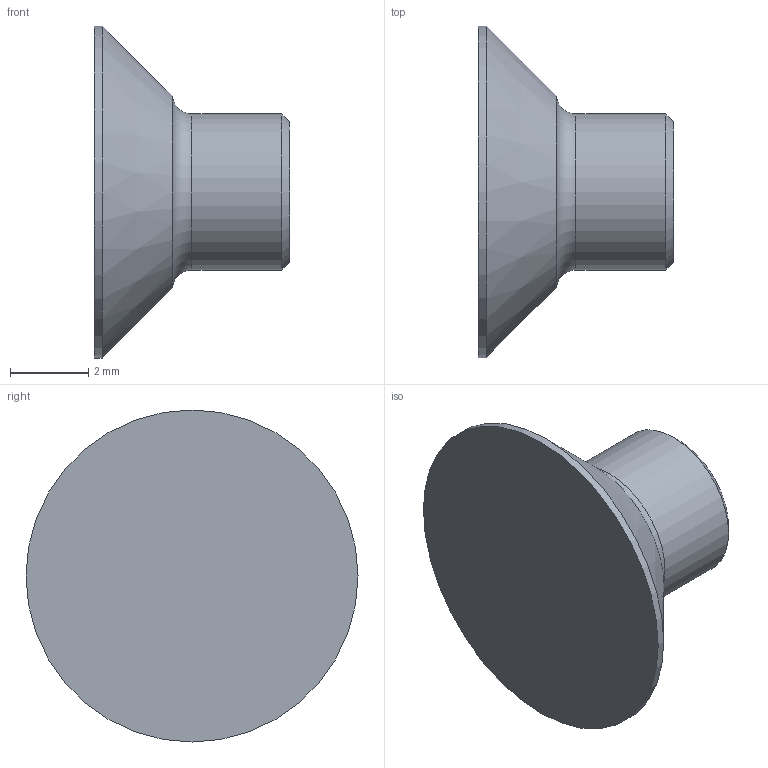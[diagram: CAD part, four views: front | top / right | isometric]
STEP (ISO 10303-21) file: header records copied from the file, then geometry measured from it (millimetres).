
FILE_DESCRIPTION(/* description */ ('05118.2.61'),/* implementation_level */ '2;1');
FILE_NAME(/* name */ 'C:\ADSK_DMS_WS\Designs\Vorschläge\Loc Schalen\Schraubenlängebestimmung\Schrauben\M4x5 Senkkopfschraube 90° Blind gehärtet.stp',/* time_stamp */ '2021-10-05T14:00:08+02:00',/* author */ ('gm'),/* organization */ (''),/* preprocessor_version */ 'ST-DEVELOPER v16.5',/* originating_system */ 'Autodesk Inventor 2017',/* authorisation */ '');
FILE_SCHEMA (('AUTOMOTIVE_DESIGN { 1 0 10303 214 3 1 1 }'));
Length unit declared in the file: millimetre
Products named in the file (1): M4x5 Senkkopfschraube 90° Blind gehärtet
Bounding box: 5 x 8.5 x 8.5 mm (x, y, z)
Volume: 114.5 mm3; surface area: 168.1 mm2
Topology: 1 solids, 1 shells, 7 faces, 13 edges, 8 vertices
Faces by surface type: cone 2, cylinder 2, plane 2, torus 1
Full cylindrical faces by diameter (mm): 4 x1, 8.5 x1
Entity records: 164 total; most frequent: DIRECTION 28, CARTESIAN_POINT 20, AXIS2_PLACEMENT_3D 14, EDGE_LOOP 12, ORIENTED_EDGE 12, FACE_OUTER_BOUND 7, ADVANCED_FACE 7, CIRCLE 6
